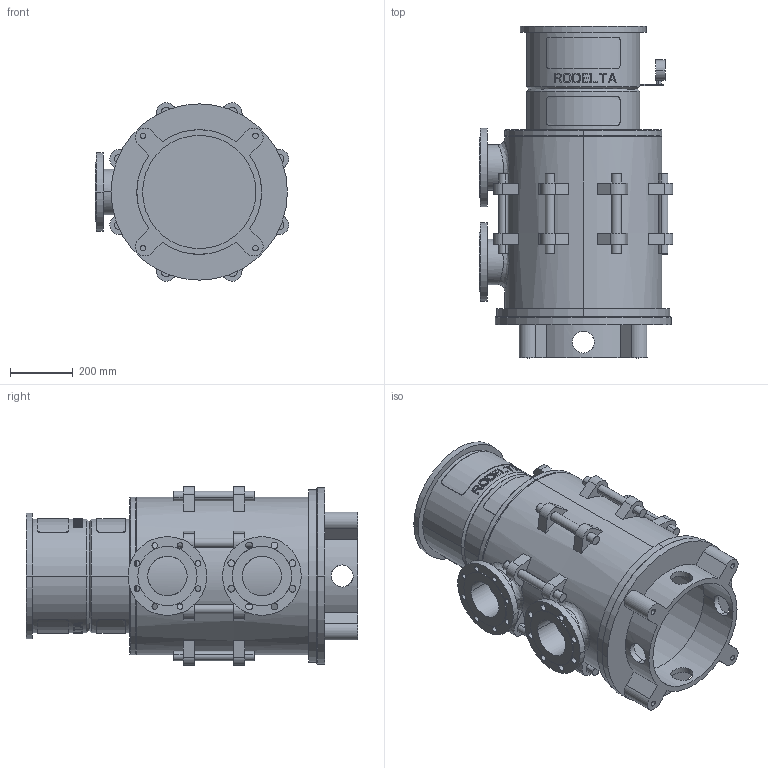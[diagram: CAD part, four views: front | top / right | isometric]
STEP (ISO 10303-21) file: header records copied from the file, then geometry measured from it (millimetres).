
FILE_DESCRIPTION((''),'2;1');
FILE_NAME('LS5_2TR_0GR_TOT_30KW','2023-08-08T',('Lyritlocal'),(''),'PRO/ENGINEER BY PARAMETRIC TECHNOLOGY CORPORATION, 2016360','PRO/ENGINEER BY PARAMETRIC TECHNOLOGY CORPORATION, 2016360','');
FILE_SCHEMA(('CONFIG_CONTROL_DESIGN'));
Length unit declared in the file: millimetre
Products named in the file (1): LS5_2TR_0GR_TOT_30KW
Bounding box: 614.04 x 1054 x 568.08 mm (x, y, z)
Volume: 32300256.2 mm3; surface area: 4434262.3 mm2
Topology: 3 solids, 7 shells, 672 faces, 1747 edges, 1158 vertices
Faces by surface type: plane 414, cylinder 242, cone 12, bspline 4
Entity records: 21943 total; most frequent: CARTESIAN_POINT 5499, ORIENTED_EDGE 3478, DIRECTION 3269, EDGE_CURVE 1747, AXIS2_PLACEMENT_3D 1241, VERTEX_POINT 1158, EDGE_LOOP 809, VECTOR 787
